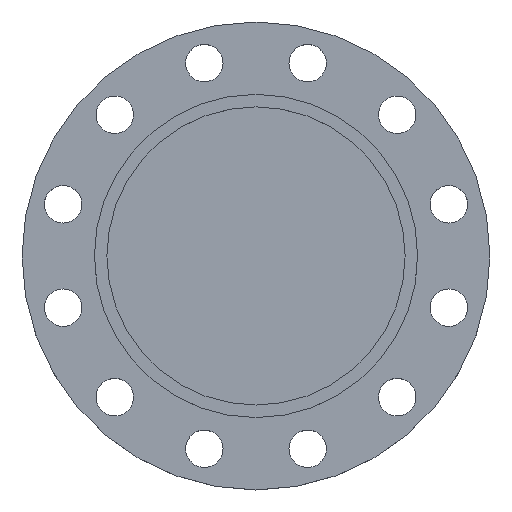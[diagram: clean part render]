
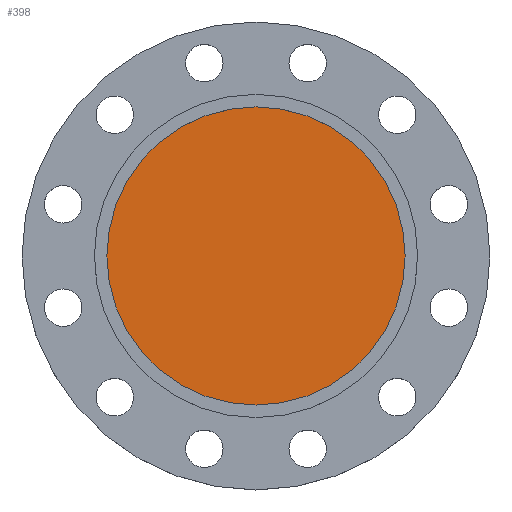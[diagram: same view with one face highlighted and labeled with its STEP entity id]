
A CAD part, top view. The second image highlights one B-rep face of the part: STEP entity #398.
In plain terms, the highlighted planar face has unit normal (0, 0, 1).
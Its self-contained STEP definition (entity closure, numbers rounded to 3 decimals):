
#18 = CARTESIAN_POINT ( 'NONE',  ( 119.5, 0., -5. ) ) ;
#151 = DIRECTION ( 'NONE',  ( 0., 0., -1. ) ) ;
#299 = CIRCLE ( 'NONE', #797, 119.5 ) ;
#398 = ADVANCED_FACE ( 'NONE', ( #526 ), #893, .T. ) ;
#406 = CARTESIAN_POINT ( 'NONE',  ( 0., 0., -5. ) ) ;
#431 = DIRECTION ( 'NONE',  ( 0., 0., 1. ) ) ;
#442 = VERTEX_POINT ( 'NONE', #823 ) ;
#457 = EDGE_LOOP ( 'NONE', ( #1183, #791 ) ) ;
#526 = FACE_OUTER_BOUND ( 'NONE', #457, .T. ) ;
#567 = DIRECTION ( 'NONE',  ( -1., 0., 0. ) ) ;
#595 = AXIS2_PLACEMENT_3D ( 'NONE', #18, #431, #817 ) ;
#637 = AXIS2_PLACEMENT_3D ( 'NONE', #406, #787, #1078 ) ;
#684 = CIRCLE ( 'NONE', #637, 119.5 ) ;
#689 = CARTESIAN_POINT ( 'NONE',  ( -119.5, 0., -5. ) ) ;
#787 = DIRECTION ( 'NONE',  ( 0., 0., -1. ) ) ;
#791 = ORIENTED_EDGE ( 'NONE', *, *, #953, .F. ) ;
#797 = AXIS2_PLACEMENT_3D ( 'NONE', #996, #151, #567 ) ;
#817 = DIRECTION ( 'NONE',  ( 1., 0., 0. ) ) ;
#823 = CARTESIAN_POINT ( 'NONE',  ( 119.5, 0., -5. ) ) ;
#881 = EDGE_CURVE ( 'NONE', #917, #442, #299, .T. ) ;
#893 = PLANE ( 'NONE',  #595 ) ;
#917 = VERTEX_POINT ( 'NONE', #689 ) ;
#953 = EDGE_CURVE ( 'NONE', #442, #917, #684, .T. ) ;
#996 = CARTESIAN_POINT ( 'NONE',  ( 0., 0., -5. ) ) ;
#1078 = DIRECTION ( 'NONE',  ( -1., 0., 0. ) ) ;
#1183 = ORIENTED_EDGE ( 'NONE', *, *, #881, .F. ) ;
